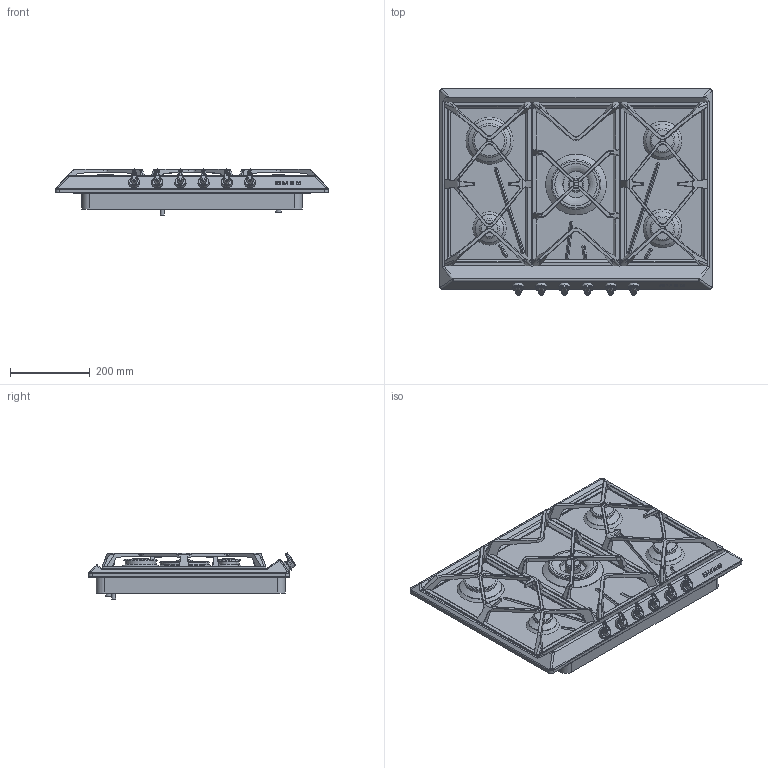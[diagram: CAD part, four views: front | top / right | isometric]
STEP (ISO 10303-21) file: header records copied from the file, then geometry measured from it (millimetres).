
FILE_DESCRIPTION(/* description */ (''),/* implementation_level */ '2;1');
FILE_NAME(/* name */ 'piano sr975xgh.stp',/* time_stamp */ '2019-03-04T10:43:57+01:00',/* author */ (''),/* organization */ (''),/* preprocessor_version */ 'ST-DEVELOPER v16',/* originating_system */ 'SIEMENS PLM Software NX 11.0',/* authorisation */ '');
FILE_SCHEMA (('AUTOMOTIVE_DESIGN { 1 0 10303 214 3 1 1 1 }'));
Length unit declared in the file: millimetre
Products named in the file (1): gobb21F4FF15tzkn
Bounding box: 683 x 518.36 x 115.25 mm (x, y, z)
Volume: 17499977.5 mm3; surface area: 1905012.1 mm2
Topology: 32 solids, 32 shells, 1282 faces, 3238 edges, 1972 vertices
Faces by surface type: plane 538, cylinder 421, bspline 126, torus 76, sphere 64, cone 47, extrusion 10
Full cylindrical faces by diameter (mm): 10 x16, 14 x2, 22.3 x1, 26 x6, 38 x1, 42 x1, 43 x1, 55 x2, 56 x2, 65.6 x1, 70.5 x1, 77.5 x1, 78.5 x1, 83 x2, 106 x1, 111 x1, 113.5 x1, 122.009 x1, 152 x1
Entity records: 43281 total; most frequent: CARTESIAN_POINT 13111, DIRECTION 6364, ORIENTED_EDGE 6136, EDGE_CURVE 3068, AXIS2_PLACEMENT_3D 2389, VERTEX_POINT 1948, VECTOR 1586, LINE 1576
